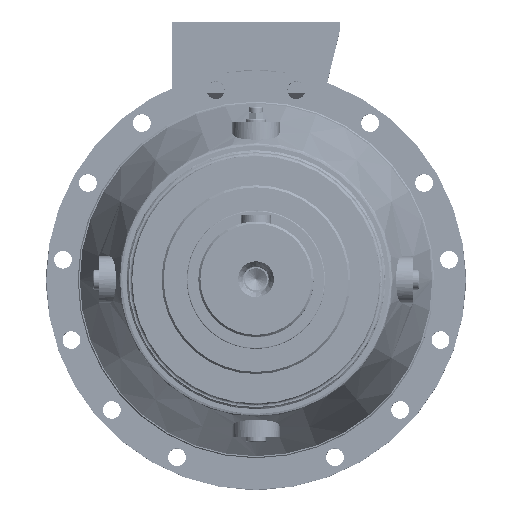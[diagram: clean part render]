
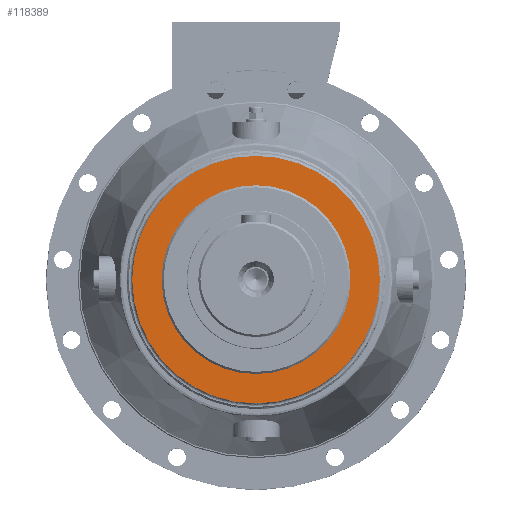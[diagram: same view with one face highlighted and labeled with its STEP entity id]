
A CAD part, top view. The second image highlights one B-rep face of the part: STEP entity #118389.
In plain terms, the highlighted planar face has unit normal (0, 0, 1).
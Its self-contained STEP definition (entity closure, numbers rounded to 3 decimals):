
#2804 = VERTEX_POINT ( 'NONE', #168735 ) ;
#2833 = VERTEX_POINT ( 'NONE', #168707 ) ;
#2858 = VERTEX_POINT ( 'NONE', #168721 ) ;
#3033 = VERTEX_POINT ( 'NONE', #168812 ) ;
#57732 = AXIS2_PLACEMENT_3D ( 'NONE', #158976, #158924, #158890 ) ;
#58609 = AXIS2_PLACEMENT_3D ( 'NONE', #165209, #165165, #165150 ) ;
#58768 = AXIS2_PLACEMENT_3D ( 'NONE', #165604, #165596, #165600 ) ;
#58775 = AXIS2_PLACEMENT_3D ( 'NONE', #165576, #165555, #165564 ) ;
#58842 = AXIS2_PLACEMENT_3D ( 'NONE', #165632, #165615, #165618 ) ;
#62072 = CIRCLE ( 'NONE', #58609, 118. ) ;
#62370 = CIRCLE ( 'NONE', #58842, 118. ) ;
#62403 = CIRCLE ( 'NONE', #58775, 90. ) ;
#62429 = CIRCLE ( 'NONE', #58768, 90. ) ;
#62774 = FACE_BOUND ( 'NONE', #141607, .T. ) ;
#62822 = FACE_OUTER_BOUND ( 'NONE', #141381, .T. ) ;
#94121 = ORIENTED_EDGE ( 'NONE', *, *, #135339, .F. ) ;
#94123 = ORIENTED_EDGE ( 'NONE', *, *, #135214, .F. ) ;
#94152 = ORIENTED_EDGE ( 'NONE', *, *, #135362, .F. ) ;
#94276 = ORIENTED_EDGE ( 'NONE', *, *, #135357, .F. ) ;
#118389 = ADVANCED_FACE ( 'NONE', ( #62774, #62822 ), #158911, .F. ) ;
#135214 = EDGE_CURVE ( 'NONE', #3033, #2804, #62072, .T. ) ;
#135339 = EDGE_CURVE ( 'NONE', #2833, #2858, #62403, .T. ) ;
#135357 = EDGE_CURVE ( 'NONE', #2804, #3033, #62370, .T. ) ;
#135362 = EDGE_CURVE ( 'NONE', #2858, #2833, #62429, .T. ) ;
#141381 = EDGE_LOOP ( 'NONE', ( #94276, #94123 ) ) ;
#141607 = EDGE_LOOP ( 'NONE', ( #94121, #94152 ) ) ;
#158890 = DIRECTION ( 'NONE',  ( 0., 1., 0. ) ) ;
#158911 = PLANE ( 'NONE',  #57732 ) ;
#158924 = DIRECTION ( 'NONE',  ( 0., 0., -1. ) ) ;
#158976 = CARTESIAN_POINT ( 'NONE',  ( 0., 118., 175. ) ) ;
#165150 = DIRECTION ( 'NONE',  ( 0., 1., 0. ) ) ;
#165165 = DIRECTION ( 'NONE',  ( 0., 0., -1. ) ) ;
#165209 = CARTESIAN_POINT ( 'NONE',  ( 0., 0., 175. ) ) ;
#165555 = DIRECTION ( 'NONE',  ( 0., 0., 1. ) ) ;
#165564 = DIRECTION ( 'NONE',  ( 0., 1., 0. ) ) ;
#165576 = CARTESIAN_POINT ( 'NONE',  ( 0., 0., 175. ) ) ;
#165596 = DIRECTION ( 'NONE',  ( 0., 0., 1. ) ) ;
#165600 = DIRECTION ( 'NONE',  ( 0., 1., 0. ) ) ;
#165604 = CARTESIAN_POINT ( 'NONE',  ( 0., 0., 175. ) ) ;
#165615 = DIRECTION ( 'NONE',  ( 0., 0., -1. ) ) ;
#165618 = DIRECTION ( 'NONE',  ( 0., 1., 0. ) ) ;
#165632 = CARTESIAN_POINT ( 'NONE',  ( 0., 0., 175. ) ) ;
#168707 = CARTESIAN_POINT ( 'NONE',  ( 0., 90., 175. ) ) ;
#168721 = CARTESIAN_POINT ( 'NONE',  ( 0., -90., 175. ) ) ;
#168735 = CARTESIAN_POINT ( 'NONE',  ( 0., -118., 175. ) ) ;
#168812 = CARTESIAN_POINT ( 'NONE',  ( 0., 118., 175. ) ) ;
